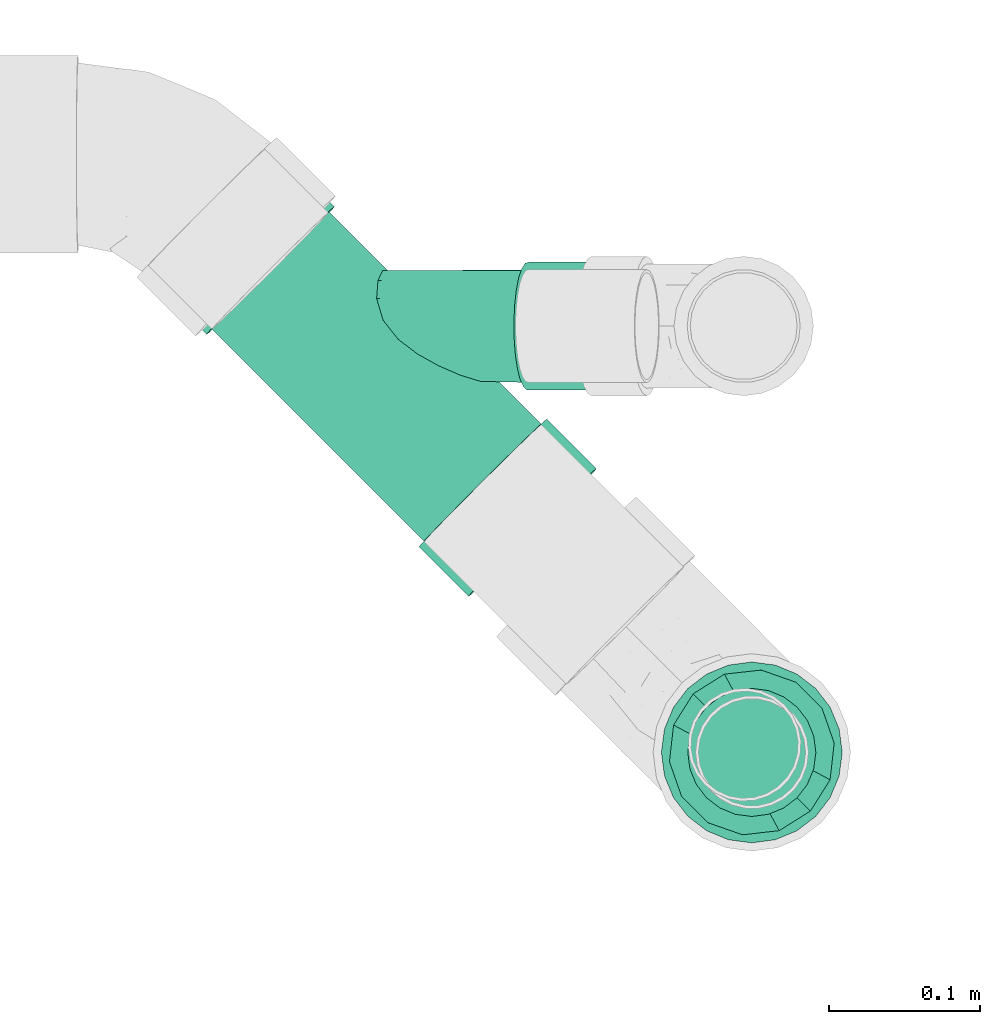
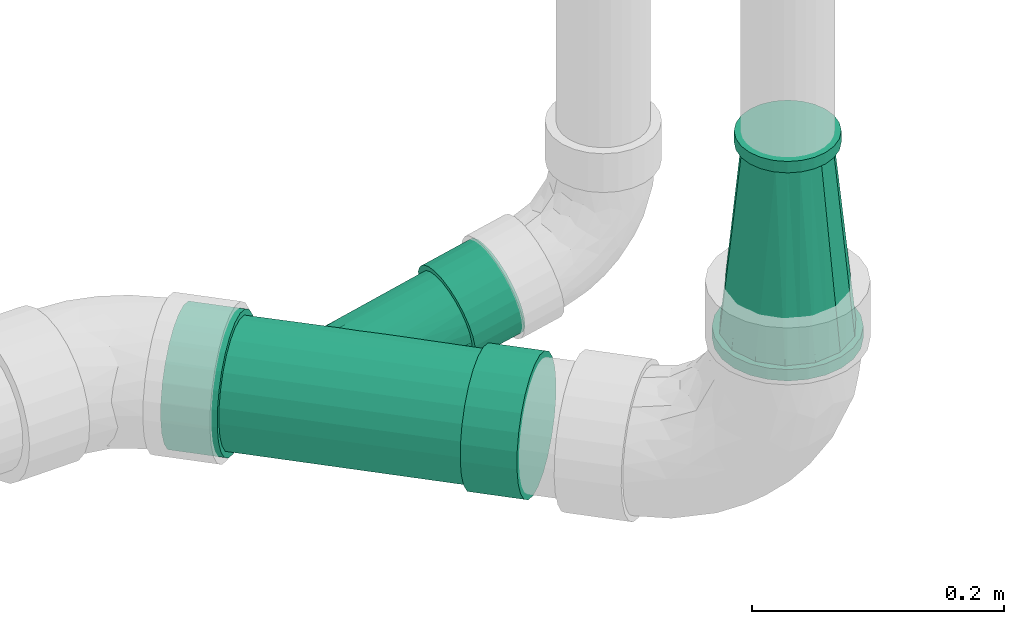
# One storey, part 64 of 83: 2 flow fittings.
"""IFC2X3 building model written with IfcOpenShell, lengths in millimetres."""

from ifc_helpers import new_model, entity, si_unit, converted_unit, derived_unit, direction, frame, origin_with_axes, place, context, subcontext, project, spatial, open_shell, surface_model, source, transform, mapped, type_object, element, save


model = new_model("IFC2X3")

# Units and contexts
model_context = context("Model", 3, precision=0.01, world=frame((0.0, 4.29681676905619e-09, 0.0)), true_north=direction((4.01073788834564e-13, 1.0)))
plan_context = context("Plan", 3, precision=0.01, world=frame((0.0, 4.29681676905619e-09, 0.0)), true_north=direction((4.01073788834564e-13, 1.0)))
body_context = subcontext(model_context, "Body", "Model", "MODEL_VIEW")
ifc_project = project(units=[converted_unit("PLANEANGLEUNIT", "DEGREE", entity("IfcPositiveLengthMeasure", 0.0174532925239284), si_unit("PLANEANGLEUNIT", "RADIAN"), dimensions=[0, 0, 0, 0, 0, 0, 0]), si_unit("AREAUNIT", "SQUARE_METRE"), si_unit("LENGTHUNIT", "METRE", prefix="MILLI"), si_unit("MASSUNIT", "GRAM", prefix="KILO"), si_unit("POWERUNIT", "WATT"), si_unit("PRESSUREUNIT", "PASCAL"), si_unit("FORCEUNIT", "NEWTON", prefix="KILO"), si_unit("ELECTRICVOLTAGEUNIT", "VOLT"), si_unit("ELECTRICCURRENTUNIT", "AMPERE"), si_unit("THERMODYNAMICTEMPERATUREUNIT", "DEGREE_CELSIUS"), si_unit("TIMEUNIT", "SECOND"), si_unit("VOLUMEUNIT", "CUBIC_METRE"), derived_unit("LINEARVELOCITYUNIT", [(si_unit("LENGTHUNIT", "METRE"), 1), (si_unit("TIMEUNIT", "SECOND"), -1)]), derived_unit("VOLUMETRICFLOWRATEUNIT", [(si_unit("VOLUMEUNIT", "CUBIC_METRE"), 1), (si_unit("TIMEUNIT", "SECOND"), -1)]), derived_unit("THERMALTRANSMITTANCEUNIT", [(si_unit("POWERUNIT", "WATT"), 1), (si_unit("THERMODYNAMICTEMPERATUREUNIT", "KELVIN"), -1), (si_unit("AREAUNIT", "SQUARE_METRE"), -1)]), derived_unit("SOUNDPRESSUREUNIT", [(si_unit("PRESSUREUNIT", "PASCAL"), 1)])], contexts=[model_context, plan_context])

# Site, building, storey
site_placement = place(None, frame((0.0, -4.29681676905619e-09, 0.0), z_axis=(0.0, 0.0, 1.0), x_axis=(1.0, 0.0, 0.0)))
site = spatial("IfcSite", under=ifc_project, at=site_placement, Name="ENGM", CompositionType="ELEMENT")
building_placement = place(site_placement, frame((0.0, 4.29681676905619e-09, 0.0), z_axis=(0.0, 0.0, 1.0), x_axis=(1.0, 0.0, 0.0)))
building = spatial("IfcBuilding", under=site, at=building_placement, Name="TI", CompositionType="ELEMENT")
storey_placement = place(building_placement, frame((0.0, 0.0, 204000.0), z_axis=(0.0, 0.0, 1.0), x_axis=(1.0, 0.0, 0.0)))
storey = spatial("IfcBuildingStorey", under=building, at=storey_placement, Name="Nivå D", CompositionType="ELEMENT", Elevation=204000.0)

# Flow fittings
pipe_fitting_type_1 = type_object("IfcPipeFittingType", Name="magi_sewer_transition_001", PredefinedType="TRANSITION")
shared_shape_1 = source(origin_with_axes(), body_context, "Body", "SurfaceModel", [
    surface_model("IfcShellBasedSurfaceModel", [(0.0, 42.42641, 42.42641), (0.0, 0.0, 60.0), (0.0, 15.52914, 57.95555), (0.0, 30.0, 51.96152), (0.0, 51.96152, 30.0), (0.0, 57.95555, 15.52914), (0.0, -51.96152, 30.0), (0.0, -60.0, 0.0), (0.0, -42.42641, 42.42641), (0.0, -30.0, 51.96152), (0.0, -15.52914, 57.95555), (0.0, -57.95555, 15.52914), (0.0, -51.96152, -30.0), (0.0, 57.95555, -15.52914), (0.0, 30.0, -51.96152), (0.0, 51.96152, -30.0), (0.0, -42.42641, -42.42641), (0.0, 42.42641, -42.42641), (0.0, 15.52914, -57.95555), (0.0, -57.95555, -15.52914), (0.0, -30.0, -51.96152), (0.0, 0.0, -60.0), (0.0, -15.52914, -57.95555), (0.0, 60.0, 0.0), (189.0, 0.0, 37.5), (189.0, 32.47595, -18.75), (189.0, 18.75, 32.47595), (189.0, -18.75, 32.47595), (189.0, -37.5, 0.0), (189.0, 32.47595, 18.75), (189.0, 37.5, 0.0), (189.0, -32.47595, 18.75), (189.0, -32.47595, -18.75), (189.0, -18.75, -32.47595), (189.0, 0.0, -37.5), (189.0, 18.75, -32.47595), (11.0, 55.0, 0.0), (11.0, 12.23865, 53.62104), (11.0, 34.29194, 43.00073), (11.0, -12.23865, 53.62104), (11.0, -34.29194, 43.00073), (11.0, -49.55329, -23.86361), (11.0, -55.0, 0.0), (11.0, -49.55329, 23.86361), (11.0, 49.55329, 23.86361), (11.0, 49.55329, -23.86361), (11.0, 34.29194, -43.00073), (11.0, -34.29194, -43.00073), (11.0, 12.23865, -53.62104), (11.0, -12.23865, -53.62104), (11.0, 23.2653, -48.31088), (189.0, 34.98798, -9.375), (11.0, 52.27664, -11.9318), (11.0, 41.92261, -33.43217), (189.0, 9.375, -34.98798), (11.0, -52.27664, -11.9318), (189.0, -34.98798, -9.375), (11.0, 0.0, -53.62104), (11.0, -23.2653, -48.31088), (189.0, -9.375, -34.98798), (11.0, -41.92261, -33.43217), (189.0, 25.61298, -25.61298), (189.0, -25.61298, -25.61298), (11.0, -23.2653, 48.31088), (189.0, -34.98798, 9.375), (11.0, -52.27664, 11.9318), (11.0, -41.92261, 33.43217), (189.0, -9.375, 34.98798), (11.0, 52.27664, 11.9318), (189.0, 34.98798, 9.375), (11.0, 0.0, 53.62104), (11.0, 23.2653, 48.31088), (189.0, 9.375, 34.98798), (11.0, 41.92261, 33.43217), (189.0, -25.61298, 25.61298), (189.0, 25.61298, 25.61298), (189.0, 10.99981, 41.05185), (189.0, -10.99981, 41.05185), (189.0, 0.0, 42.5), (189.0, 30.05204, 30.05204), (189.0, 21.25, 36.80608), (189.0, 36.80608, 21.25), (189.0, 41.05185, 10.99981), (189.0, -42.5, 0.0), (189.0, -41.05185, -10.99981), (189.0, -30.05204, 30.05204), (189.0, -21.25, 36.80608), (189.0, -36.80608, 21.25), (189.0, -41.05185, 10.99981), (189.0, 21.25, -36.80608), (189.0, 42.5, 0.0), (189.0, 41.05185, -10.99981), (189.0, 36.80608, -21.25), (189.0, -10.99981, -41.05185), (189.0, 30.05204, -30.05204), (189.0, 10.99981, -41.05185), (189.0, -30.05204, -30.05204), (189.0, -36.80608, -21.25), (189.0, -21.25, -36.80608), (189.0, 0.0, -42.5), (200.0, 21.25, -36.80608), (200.0, -41.05185, -10.99981), (200.0, 10.99981, -41.05185), (200.0, 36.80608, -21.25), (200.0, 30.05204, -30.05204), (200.0, 41.05185, -10.99981), (200.0, 42.5, 0.0), (200.0, 30.05204, 30.05204), (200.0, -10.99981, -41.05185), (200.0, -21.25, -36.80608), (200.0, 0.0, -42.5), (200.0, -30.05204, -30.05204), (200.0, -36.80608, -21.25), (200.0, 41.05185, 10.99981), (200.0, 36.80608, 21.25), (200.0, 10.99981, 41.05185), (200.0, 0.0, 42.5), (200.0, 21.25, 36.80608), (200.0, -42.5, 0.0), (200.0, -41.05185, 10.99981), (200.0, -10.99981, 41.05185), (200.0, -36.80608, 21.25), (200.0, -30.05204, 30.05204), (200.0, -21.25, 36.80608), (11.0, 30.0, -51.96152), (11.0, -42.42641, -42.42641), (11.0, 15.52914, -57.95555), (11.0, 51.96152, -30.0), (11.0, 42.42641, -42.42641), (11.0, 57.95555, -15.52914), (11.0, -60.0, 0.0), (11.0, 0.0, -60.0), (11.0, -30.0, -51.96152), (11.0, -15.52914, -57.95555), (11.0, -51.96152, -30.0), (11.0, -57.95555, -15.52914), (11.0, 60.0, 0.0), (11.0, 57.95555, 15.52914), (11.0, 51.96152, 30.0), (11.0, 42.42641, 42.42641), (11.0, 15.52914, 57.95555), (11.0, 0.0, 60.0), (11.0, 30.0, 51.96152), (11.0, -51.96152, 30.0), (11.0, -57.95555, 15.52914), (11.0, -42.42641, 42.42641), (11.0, -30.0, 51.96152), (11.0, -15.52914, 57.95555)], [open_shell([[[0, 1, 2]], [[0, 2, 3]], [[0, 4, 5]], [[1, 0, 6]], [[7, 0, 5]], [[1, 8, 9]], [[9, 10, 1]], [[6, 7, 11]], [[1, 6, 8]], [[0, 7, 6]], [[5, 12, 7]], [[5, 13, 14]], [[14, 13, 15]], [[14, 16, 5]], [[14, 15, 17]], [[18, 16, 14]], [[16, 12, 5]], [[19, 7, 12]], [[20, 21, 22]], [[21, 20, 16]], [[21, 16, 18]], [[23, 13, 5]], [[24, 25, 26]], [[27, 28, 24]], [[26, 25, 29]], [[30, 29, 25]], [[28, 27, 31]], [[28, 32, 33]], [[28, 33, 34]], [[25, 34, 35]], [[34, 25, 28]], [[28, 25, 24]], [[36, 37, 38]], [[36, 39, 37]], [[40, 39, 36]], [[41, 42, 43]], [[43, 40, 41]], [[44, 36, 38]], [[41, 36, 45]], [[41, 45, 46]], [[47, 41, 48]], [[48, 49, 47]], [[41, 46, 48]], [[36, 41, 40]], [[50, 46, 35]], [[51, 45, 52]], [[53, 45, 25]], [[25, 45, 51]], [[50, 54, 48]], [[28, 55, 56]], [[55, 41, 56]], [[34, 57, 48]], [[33, 47, 58]], [[55, 28, 42]], [[34, 49, 57]], [[58, 59, 33]], [[30, 51, 52]], [[60, 32, 41]], [[25, 61, 53]], [[61, 46, 53]], [[61, 35, 46]], [[58, 49, 59]], [[30, 52, 36]], [[41, 32, 56]], [[32, 60, 62]], [[47, 33, 62]], [[54, 34, 48]], [[49, 34, 59]], [[60, 47, 62]], [[54, 50, 35]], [[63, 40, 27]], [[64, 43, 65]], [[66, 43, 31]], [[31, 43, 64]], [[63, 67, 39]], [[30, 68, 69]], [[68, 44, 69]], [[24, 70, 39]], [[26, 38, 71]], [[68, 30, 36]], [[24, 37, 70]], [[71, 72, 26]], [[28, 64, 65]], [[73, 29, 44]], [[31, 74, 66]], [[74, 40, 66]], [[74, 27, 40]], [[71, 37, 72]], [[28, 65, 42]], [[44, 29, 69]], [[29, 73, 75]], [[38, 26, 75]], [[67, 24, 39]], [[37, 24, 72]], [[73, 38, 75]], [[67, 63, 27]], [[76, 77, 78]], [[79, 76, 80]], [[79, 81, 82]], [[83, 76, 79]], [[84, 83, 79]], [[77, 85, 86]], [[85, 77, 87]], [[77, 88, 87]], [[88, 77, 83]], [[77, 76, 83]], [[79, 82, 89]], [[90, 91, 92]], [[92, 89, 82]], [[89, 93, 79]], [[89, 92, 94]], [[95, 93, 89]], [[84, 96, 97]], [[96, 84, 98]], [[84, 93, 98]], [[79, 93, 84]], [[95, 99, 93]], [[82, 90, 92]], [[100, 101, 102]], [[103, 100, 104]], [[103, 105, 106]], [[100, 103, 107]], [[107, 101, 100]], [[108, 101, 109]], [[108, 110, 102]], [[111, 101, 112]], [[101, 111, 109]], [[102, 101, 108]], [[113, 103, 106]], [[113, 114, 107]], [[107, 115, 101]], [[115, 116, 101]], [[115, 107, 117]], [[101, 116, 118]], [[119, 120, 121]], [[120, 119, 118]], [[122, 120, 123]], [[120, 122, 121]], [[118, 116, 120]], [[107, 103, 113]], [[84, 101, 83]], [[97, 112, 84]], [[109, 96, 98]], [[97, 96, 111]], [[108, 98, 93]], [[84, 112, 101]], [[101, 118, 83]], [[108, 109, 98]], [[111, 96, 109]], [[111, 112, 97]], [[110, 108, 93]], [[93, 99, 110]], [[95, 102, 99]], [[89, 100, 95]], [[103, 94, 92]], [[89, 94, 104]], [[105, 92, 91]], [[89, 104, 100]], [[100, 102, 95]], [[106, 105, 91]], [[103, 92, 105]], [[103, 104, 94]], [[90, 106, 91]], [[99, 102, 110]], [[82, 113, 90]], [[81, 114, 82]], [[117, 79, 80]], [[81, 79, 107]], [[115, 80, 76]], [[82, 114, 113]], [[113, 106, 90]], [[115, 117, 80]], [[107, 79, 117]], [[107, 114, 81]], [[116, 115, 76]], [[76, 78, 116]], [[77, 120, 78]], [[86, 123, 77]], [[121, 85, 87]], [[86, 85, 122]], [[119, 87, 88]], [[86, 122, 123]], [[123, 120, 77]], [[118, 119, 88]], [[121, 87, 119]], [[121, 122, 85]], [[83, 118, 88]], [[78, 120, 116]], [[124, 125, 126]], [[127, 124, 128]], [[124, 129, 130]], [[129, 124, 127]], [[130, 125, 124]], [[131, 132, 133]], [[132, 131, 125]], [[126, 125, 131]], [[125, 130, 134]], [[134, 130, 135]], [[129, 136, 137]], [[137, 138, 139]], [[130, 137, 139]], [[140, 141, 139]], [[140, 139, 142]], [[143, 139, 141]], [[130, 143, 144]], [[130, 139, 143]], [[141, 145, 143]], [[141, 146, 145]], [[147, 146, 141]], [[137, 130, 129]], [[19, 135, 7]], [[12, 134, 19]], [[132, 16, 20]], [[12, 16, 125]], [[133, 20, 22]], [[19, 134, 135]], [[135, 130, 7]], [[133, 132, 20]], [[125, 16, 132]], [[125, 134, 12]], [[131, 133, 22]], [[22, 21, 131]], [[18, 126, 21]], [[14, 124, 18]], [[127, 17, 15]], [[14, 17, 128]], [[129, 15, 13]], [[14, 128, 124]], [[124, 126, 18]], [[136, 129, 13]], [[127, 15, 129]], [[127, 128, 17]], [[23, 136, 13]], [[21, 126, 131]], [[5, 137, 23]], [[4, 138, 5]], [[142, 0, 3]], [[4, 0, 139]], [[140, 3, 2]], [[5, 138, 137]], [[137, 136, 23]], [[140, 142, 3]], [[139, 0, 142]], [[139, 138, 4]], [[141, 140, 2]], [[2, 1, 141]], [[10, 147, 1]], [[9, 146, 10]], [[143, 8, 6]], [[9, 8, 145]], [[144, 6, 11]], [[9, 145, 146]], [[146, 147, 10]], [[130, 144, 11]], [[143, 6, 144]], [[143, 145, 8]], [[7, 130, 11]], [[1, 147, 141]]])]),
])
flow_fitting_1_placement = place(storey_placement, frame((609130.93565, 692600.83697, 6297.87482999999), z_axis=(-0.707106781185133, -0.707106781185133, -1.99999938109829e-06), x_axis=(-1.4142131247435e-06, -1.4142131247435e-06, 0.999999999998)))
element("IfcFlowFitting", 1, at=flow_fitting_1_placement, inside=storey, type_object=pipe_fitting_type_1, Name="magi_sewer_transition_001", context=body_context, shape_type="MappedRepresentation", body=[
    mapped(shared_shape_1, transform((0.0, 0.0, 0.0), scale=1.0)),
])
pipe_fitting_type_2 = type_object("IfcPipeFittingType", Name="magi_sewer_tee_wye_NOR", PredefinedType="JUNCTION")
shared_shape_2 = source(origin_with_axes(), body_context, "Body", "SurfaceModel", [
    surface_model("IfcShellBasedSurfaceModel", [(193.79707, 30.0, -51.96152), (193.79707, -42.42641, -42.42641), (193.79707, 15.52914, -57.95555), (193.79707, 51.96152, -30.0), (193.79707, 42.42641, -42.42641), (193.79707, 57.95555, -15.52914), (193.79707, 60.0, 0.0), (193.79707, 0.0, -60.0), (193.79707, -30.0, -51.96152), (193.79707, -15.52914, -57.95555), (193.79707, 57.95555, 15.52914), (193.79707, -51.96152, -30.0), (193.79707, -60.0, 0.0), (193.79707, -57.95555, -15.52914), (193.79707, 51.96152, 30.0), (193.79707, 42.42641, 42.42641), (193.79707, 15.52914, 57.95555), (193.79707, 0.0, 60.0), (193.79707, 30.0, 51.96152), (193.79707, -51.96152, 30.0), (193.79707, -57.95555, 15.52914), (193.79707, -30.0, 51.96152), (193.79707, -42.42641, 42.42641), (193.79707, -15.52914, 57.95555), (147.29707, 42.42641, 42.42641), (147.29707, 0.0, 60.0), (147.29707, 15.52914, 57.95555), (147.29707, 30.0, 51.96152), (147.29707, 51.96152, 30.0), (147.29707, 57.95555, 15.52914), (147.29707, -60.0, 0.0), (147.29707, -30.0, 51.96152), (147.29707, -51.96152, 30.0), (147.29707, -42.42641, 42.42641), (147.29707, -15.52914, 57.95555), (147.29707, -57.95555, 15.52914), (147.29707, -51.96152, -30.0), (147.29707, -42.42641, -42.42641), (147.29707, 57.95555, -15.52914), (147.29707, 42.42641, -42.42641), (147.29707, 51.96152, -30.0), (147.29707, 30.0, -51.96152), (147.29707, 15.52914, -57.95555), (147.29707, -57.95555, -15.52914), (147.29707, -30.0, -51.96152), (147.29707, 0.0, -60.0), (147.29707, -15.52914, -57.95555), (147.29707, 60.0, 0.0), (95.27503, -99.01584, -42.5), (87.34871, -106.64271, -41.05185), (103.20137, -91.38896, -41.05185), (110.58753, -84.28186, -36.80608), (121.79704, -73.49583, -21.25), (124.85649, -70.55197, -10.99981), (116.93016, -78.17884, -30.05204), (65.69359, -127.47971, -10.99981), (73.61991, -119.85283, -30.05204), (68.75303, -124.53585, -21.25), (79.96255, -113.74982, -36.80608), (64.65006, -128.4838, 0.0), (125.90001, -69.54787, 0.0), (121.79704, -73.49583, 21.25), (124.85649, -70.55197, 10.99981), (65.69359, -127.47971, 10.99981), (110.58753, -84.28186, 36.80608), (79.96255, -113.74982, 36.80608), (116.93016, -78.17884, 30.05204), (103.20137, -91.38896, 41.05185), (95.27503, -99.01584, 42.5), (68.75303, -124.53585, 21.25), (73.61991, -119.85283, 30.05204), (87.34871, -106.64271, 41.05185), (135.44279, -124.89629, -41.05185), (119.59013, -140.15003, -41.05185), (127.51646, -132.52316, -42.5), (157.09791, -104.05929, -10.99981), (142.82895, -117.78918, -36.80608), (149.17158, -111.68616, -30.05204), (154.03847, -107.00315, -21.25), (97.93501, -160.98703, -10.99981), (105.86133, -153.36015, -30.05204), (112.20397, -147.25715, -36.80608), (100.99445, -158.04317, -21.25), (142.82895, -117.78918, 36.80608), (96.89149, -161.99113, 0.0), (157.09791, -104.05929, 10.99981), (149.17158, -111.68616, 30.05204), (154.03847, -107.00315, 21.25), (97.93501, -160.98703, 10.99981), (135.44279, -124.89629, 41.05185), (105.86133, -153.36015, 30.05204), (100.99445, -158.04317, 21.25), (112.20397, -147.25715, 36.80608), (127.51646, -132.52316, 42.5), (119.59013, -140.15003, 41.05185), (158.14144, -103.05519, 0.0), (-98.52204, -30.0, -51.96152), (-98.52204, 42.42641, -42.42641), (-98.52204, -15.52914, -57.95555), (-98.52204, -51.96152, -30.0), (-98.52204, -42.42641, -42.42641), (-98.52204, -57.95555, -15.52914), (-98.52204, -60.0, 0.0), (-98.52204, 0.0, -60.0), (-98.52204, 30.0, -51.96152), (-98.52204, 15.52914, -57.95555), (-98.52204, -57.95555, 15.52914), (-98.52204, 51.96152, -30.0), (-98.52204, 60.0, 0.0), (-98.52204, 57.95555, -15.52914), (-98.52204, -51.96152, 30.0), (-98.52204, -42.42641, 42.42641), (-98.52204, -15.52914, 57.95555), (-98.52204, 0.0, 60.0), (-98.52204, -30.0, 51.96152), (-98.52204, 51.96152, 30.0), (-98.52204, 57.95555, 15.52914), (-98.52204, 30.0, 51.96152), (-98.52204, 42.42641, 42.42641), (-98.52204, 15.52914, 57.95555), (-52.02203, -42.42641, 42.42641), (-52.02203, 0.0, 60.0), (-52.02203, -15.52914, 57.95555), (-52.02203, -30.0, 51.96152), (-52.02203, -51.96152, 30.0), (-52.02203, -57.95555, 15.52914), (-52.02203, 60.0, 0.0), (-52.02203, 30.0, 51.96152), (-52.02203, 51.96152, 30.0), (-52.02203, 42.42641, 42.42641), (-52.02203, 15.52914, 57.95555), (-52.02203, 57.95555, 15.52914), (-52.02203, 51.96152, -30.0), (-52.02203, 42.42641, -42.42641), (-52.02203, -57.95555, -15.52914), (-52.02203, -42.42641, -42.42641), (-52.02203, -51.96152, -30.0), (-52.02203, -30.0, -51.96152), (-52.02203, -15.52914, -57.95555), (-52.02203, 57.95555, -15.52914), (-52.02203, 30.0, -51.96152), (-52.02203, 0.0, -60.0), (-52.02203, 15.52914, -57.95555), (-52.02203, -60.0, 0.0), (147.29707, 27.5, -47.63139), (147.29707, 0.0, -55.0), (147.29707, 14.23505, -53.12592), (147.29707, 38.89087, -38.89087), (147.29707, -27.5, -47.63139), (147.29707, 47.63139, -27.5), (147.29707, 53.12592, -14.23505), (147.29707, 55.0, 0.0), (147.29707, -14.23505, -53.12592), (147.29707, -47.63139, -27.5), (147.29707, -38.89087, -38.89087), (147.29707, -55.0, 0.0), (147.29707, -53.12592, -14.23505), (147.29707, 53.12592, 14.23505), (147.29707, 47.63139, 27.5), (147.29707, 27.5, 47.63139), (147.29707, 38.89087, 38.89087), (147.29707, 14.23505, 53.12592), (147.29707, 0.0, 55.0), (147.29707, -47.63139, 27.5), (147.29707, -53.12592, 14.23505), (147.29707, -27.5, 47.63139), (147.29707, -38.89087, 38.89087), (147.29707, -14.23505, 53.12592), (-52.02203, 0.0, 55.0), (-52.02203, 14.23505, 53.12592), (-52.02203, 27.5, 47.63139), (-52.02203, 47.63139, 27.5), (-52.02203, -47.63139, 27.5), (-52.02203, 38.89087, 38.89087), (-52.02203, 53.12592, -14.23505), (-52.02203, -27.5, 47.63139), (-52.02203, -14.23505, 53.12592), (-52.02203, -38.89087, 38.89087), (-52.02203, -55.0, 0.0), (-52.02203, -53.12592, 14.23505), (-52.02203, 53.12592, 14.23505), (-52.02203, 47.63139, -27.5), (-52.02203, -27.5, -47.63139), (-52.02203, 0.0, -55.0), (-52.02203, 38.89087, -38.89087), (-52.02203, 27.5, -47.63139), (-52.02203, 14.23505, -53.12592), (-52.02203, -47.63139, -27.5), (-52.02203, -38.89087, -38.89087), (-52.02203, -53.12592, -14.23505), (-52.02203, -14.23505, -53.12592), (-52.02203, 55.0, 0.0), (0.88125, -55.0, 0.0), (3.49061, -52.68557, -15.78706), (24.90901, -41.70107, -35.86114), (11.53036, -46.98744, -28.58636), (40.95891, -40.26533, -37.46602), (86.62088, -49.19455, -24.59463), (147.29707, -50.37866, -20.86752), (104.96297, -55.0, 0.0), (98.89193, -53.00539, -14.6775), (72.32219, -45.26111, -31.24791), (56.99415, -41.97518, -35.5399), (40.95891, -40.26533, 37.46602), (24.90901, -41.70107, 35.86114), (11.53036, -46.98744, 28.58636), (98.89193, -53.00539, 14.6775), (147.29707, -50.37866, 20.86752), (86.62088, -49.19455, 24.59463), (3.49061, -52.68557, 15.78706), (56.99415, -41.97518, 35.5399), (72.32219, -45.26111, 31.24791), (114.3825, -80.63025, -26.5165), (95.27503, -99.01584, -37.5), (102.26886, -92.28625, -36.22222), (108.78606, -86.01526, -32.47595), (118.6768, -76.49818, 18.75), (71.87327, -121.53349, -18.75), (81.76402, -112.01641, -32.47595), (118.6768, -76.49818, -18.75), (122.29707, -73.01469, 0.0), (76.16758, -117.40143, -26.5165), (88.28122, -105.74543, -36.22222), (69.17376, -124.13101, -9.70571), (69.17376, -124.13101, 9.70571), (68.253, -125.01699, 0.0), (121.37632, -73.90066, -9.70571), (121.37632, -73.90066, 9.70571), (102.26886, -92.28625, 36.22222), (108.78606, -86.01526, 32.47595), (114.3825, -80.63025, 26.5165), (81.76402, -112.01641, 32.47595), (71.87327, -121.53349, 18.75), (76.16758, -117.40143, 26.5165), (95.27503, -99.01584, 37.5), (88.28122, -105.74543, 36.22222), (18.21968, -44.34425, 32.22375), (2.18593, -53.84278, 7.89353), (7.51049, -49.83651, 22.18671), (103.44521, -54.50135, 3.66938), (121.83669, -73.45768, 4.85286), (120.02656, -75.19942, 14.22786), (101.92745, -54.00269, 7.33875), (92.7564, -51.09997, 19.63607), (101.92745, -54.00269, -7.33875), (121.83669, -73.45768, -4.85286), (92.7564, -51.09997, -19.63607), (103.44521, -54.50135, -3.66938), (7.51049, -49.83651, -22.18671), (120.02656, -75.19942, -14.22786), (2.18593, -53.84278, -7.89353), (18.21968, -44.34425, -32.22375)], [open_shell([[[0, 1, 2]], [[3, 0, 4]], [[5, 6, 0]], [[5, 0, 3]], [[1, 0, 6]], [[7, 8, 9]], [[8, 7, 1]], [[2, 1, 7]], [[1, 10, 11]], [[11, 12, 13]], [[10, 1, 6]], [[10, 14, 15]], [[12, 10, 15]], [[16, 17, 15]], [[16, 15, 18]], [[19, 15, 17]], [[12, 19, 20]], [[12, 15, 19]], [[19, 21, 22]], [[19, 17, 21]], [[23, 21, 17]], [[10, 12, 11]], [[24, 25, 26]], [[24, 26, 27]], [[24, 28, 29]], [[25, 24, 30]], [[30, 24, 29]], [[31, 32, 33]], [[31, 34, 25]], [[32, 30, 35]], [[31, 25, 32]], [[25, 30, 32]], [[29, 36, 30]], [[37, 29, 38]], [[39, 38, 40]], [[41, 42, 38]], [[41, 38, 39]], [[37, 38, 42]], [[37, 36, 29]], [[43, 30, 36]], [[44, 45, 46]], [[45, 44, 37]], [[45, 37, 42]], [[47, 38, 29]], [[43, 13, 30]], [[36, 11, 43]], [[8, 37, 44]], [[36, 37, 1]], [[9, 44, 46]], [[43, 11, 13]], [[13, 12, 30]], [[9, 8, 44]], [[1, 37, 8]], [[1, 11, 36]], [[7, 9, 46]], [[46, 45, 7]], [[2, 42, 41]], [[39, 0, 41]], [[3, 40, 38]], [[39, 40, 4]], [[5, 38, 47]], [[42, 2, 45]], [[41, 0, 2]], [[45, 2, 7]], [[39, 4, 0]], [[40, 3, 4]], [[5, 3, 38]], [[47, 6, 5]], [[29, 10, 47]], [[28, 14, 29]], [[18, 24, 27]], [[28, 24, 15]], [[16, 27, 26]], [[29, 14, 10]], [[10, 6, 47]], [[18, 27, 16]], [[15, 24, 18]], [[15, 14, 28]], [[16, 25, 17]], [[16, 26, 25]], [[23, 34, 31]], [[33, 21, 31]], [[19, 32, 35]], [[33, 32, 22]], [[20, 35, 30]], [[34, 23, 25]], [[31, 21, 23]], [[25, 23, 17]], [[33, 22, 21]], [[32, 19, 22]], [[20, 19, 35]], [[30, 12, 20]], [[48, 49, 50]], [[51, 50, 52]], [[50, 53, 52]], [[54, 51, 52]], [[53, 50, 55]], [[56, 57, 58]], [[49, 58, 57]], [[57, 55, 49]], [[55, 50, 49]], [[55, 59, 53]], [[59, 60, 53]], [[61, 62, 60]], [[63, 61, 59]], [[64, 61, 65]], [[66, 61, 64]], [[67, 64, 68]], [[69, 70, 63]], [[70, 61, 63]], [[71, 68, 65]], [[65, 61, 70]], [[65, 68, 64]], [[60, 59, 61]], [[72, 73, 74]], [[75, 72, 76]], [[77, 78, 75]], [[77, 75, 76]], [[79, 72, 75]], [[73, 80, 81]], [[80, 73, 79]], [[80, 79, 82]], [[73, 72, 79]], [[79, 83, 84]], [[79, 75, 83]], [[75, 85, 83]], [[86, 85, 87]], [[83, 88, 84]], [[83, 85, 86]], [[88, 83, 89]], [[88, 90, 91]], [[90, 88, 92]], [[92, 93, 94]], [[93, 92, 88]], [[88, 89, 93]], [[75, 95, 85]], [[88, 59, 84]], [[91, 63, 88]], [[92, 94, 71]], [[90, 92, 70]], [[90, 69, 91]], [[91, 69, 63]], [[63, 59, 88]], [[70, 92, 65]], [[71, 65, 92]], [[68, 71, 94]], [[70, 69, 90]], [[94, 93, 68]], [[64, 89, 83]], [[86, 66, 83]], [[62, 87, 85]], [[86, 87, 61]], [[60, 85, 95]], [[89, 67, 93]], [[89, 64, 67]], [[93, 67, 68]], [[83, 66, 64]], [[86, 61, 66]], [[62, 61, 87]], [[85, 60, 62]], [[75, 78, 52]], [[95, 75, 60]], [[51, 77, 76]], [[77, 54, 78]], [[50, 76, 72]], [[53, 60, 75]], [[52, 53, 75]], [[52, 78, 54]], [[77, 51, 54]], [[50, 51, 76]], [[72, 48, 50]], [[72, 74, 48]], [[58, 73, 81]], [[80, 56, 81]], [[55, 82, 79]], [[80, 82, 57]], [[59, 79, 84]], [[73, 49, 74]], [[73, 58, 49]], [[74, 49, 48]], [[81, 56, 58]], [[80, 57, 56]], [[55, 57, 82]], [[79, 59, 55]], [[96, 97, 98]], [[99, 96, 100]], [[101, 102, 96]], [[101, 96, 99]], [[97, 96, 102]], [[103, 104, 105]], [[104, 103, 97]], [[98, 97, 103]], [[97, 106, 107]], [[107, 108, 109]], [[106, 97, 102]], [[106, 110, 111]], [[108, 106, 111]], [[112, 113, 111]], [[112, 111, 114]], [[115, 111, 113]], [[108, 115, 116]], [[108, 111, 115]], [[115, 117, 118]], [[115, 113, 117]], [[119, 117, 113]], [[106, 108, 107]], [[120, 121, 122]], [[120, 122, 123]], [[120, 124, 125]], [[121, 120, 126]], [[126, 120, 125]], [[127, 128, 129]], [[127, 130, 121]], [[128, 126, 131]], [[127, 121, 128]], [[121, 126, 128]], [[125, 132, 126]], [[133, 125, 134]], [[135, 134, 136]], [[137, 138, 134]], [[137, 134, 135]], [[133, 134, 138]], [[133, 132, 125]], [[139, 126, 132]], [[140, 141, 142]], [[141, 140, 133]], [[141, 133, 138]], [[143, 134, 125]], [[139, 109, 126]], [[132, 107, 139]], [[104, 133, 140]], [[132, 133, 97]], [[105, 140, 142]], [[139, 107, 109]], [[109, 108, 126]], [[105, 104, 140]], [[97, 133, 104]], [[97, 107, 132]], [[103, 105, 142]], [[142, 141, 103]], [[98, 138, 137]], [[135, 96, 137]], [[99, 136, 134]], [[135, 136, 100]], [[101, 134, 143]], [[138, 98, 141]], [[137, 96, 98]], [[141, 98, 103]], [[135, 100, 96]], [[136, 99, 100]], [[101, 99, 134]], [[143, 102, 101]], [[125, 106, 143]], [[124, 110, 125]], [[114, 120, 123]], [[124, 120, 111]], [[112, 123, 122]], [[125, 110, 106]], [[106, 102, 143]], [[114, 123, 112]], [[111, 120, 114]], [[111, 110, 124]], [[112, 121, 113]], [[112, 122, 121]], [[119, 130, 127]], [[129, 117, 127]], [[115, 128, 131]], [[129, 128, 118]], [[116, 131, 126]], [[130, 119, 121]], [[127, 117, 119]], [[121, 119, 113]], [[129, 118, 117]], [[128, 115, 118]], [[116, 115, 131]], [[126, 108, 116]], [[144, 145, 146]], [[147, 148, 144]], [[148, 149, 150]], [[147, 149, 148]], [[151, 148, 150]], [[145, 148, 152]], [[145, 144, 148]], [[148, 153, 154]], [[148, 151, 153]], [[155, 156, 153]], [[153, 151, 157]], [[158, 155, 157]], [[159, 158, 160]], [[159, 161, 162]], [[158, 159, 155]], [[162, 163, 159]], [[155, 163, 164]], [[155, 159, 163]], [[162, 165, 166]], [[166, 163, 162]], [[165, 162, 167]], [[157, 155, 153]], [[168, 169, 170]], [[168, 170, 171]], [[168, 171, 172]], [[171, 170, 173]], [[174, 172, 171]], [[168, 175, 176]], [[168, 177, 175]], [[172, 178, 179]], [[177, 168, 172]], [[172, 174, 178]], [[174, 171, 180]], [[174, 181, 178]], [[181, 182, 178]], [[183, 184, 185]], [[181, 184, 183]], [[185, 186, 183]], [[187, 182, 188]], [[189, 178, 187]], [[182, 183, 190]], [[187, 178, 182]], [[183, 182, 181]], [[191, 174, 180]], [[178, 189, 192]], [[193, 192, 189]], [[189, 187, 193]], [[187, 188, 194]], [[194, 195, 187]], [[196, 194, 188]], [[196, 148, 154]], [[187, 195, 193]], [[197, 153, 198]], [[199, 200, 156]], [[156, 155, 199]], [[197, 198, 200]], [[201, 202, 154]], [[201, 153, 197]], [[153, 201, 154]], [[198, 156, 200]], [[202, 196, 154]], [[196, 188, 182]], [[152, 190, 183]], [[148, 182, 190]], [[145, 183, 186]], [[181, 174, 149]], [[144, 185, 184]], [[147, 184, 181]], [[186, 185, 146]], [[150, 174, 191]], [[148, 190, 152]], [[152, 183, 145]], [[146, 145, 186]], [[185, 144, 146]], [[144, 184, 147]], [[149, 147, 181]], [[150, 149, 174]], [[191, 151, 150]], [[182, 148, 196]], [[158, 180, 171]], [[171, 173, 158]], [[191, 180, 157]], [[168, 176, 162]], [[169, 159, 170]], [[161, 169, 168]], [[173, 170, 160]], [[167, 176, 175]], [[158, 157, 180]], [[173, 160, 158]], [[157, 151, 191]], [[170, 159, 160]], [[159, 169, 161]], [[162, 161, 168]], [[167, 162, 176]], [[175, 165, 167]], [[175, 203, 165]], [[204, 172, 205]], [[172, 204, 177]], [[206, 207, 208]], [[204, 203, 177]], [[203, 166, 165]], [[179, 178, 192]], [[179, 209, 172]], [[209, 179, 192]], [[172, 209, 205]], [[210, 211, 166]], [[163, 166, 211]], [[211, 208, 163]], [[210, 166, 203]], [[206, 164, 207]], [[164, 199, 155]], [[199, 164, 206]], [[208, 207, 163]], [[203, 175, 177]], [[212, 213, 214]], [[212, 214, 215]], [[212, 216, 217]], [[213, 212, 218]], [[212, 219, 220]], [[218, 217, 221]], [[218, 222, 213]], [[223, 224, 225]], [[218, 212, 217]], [[223, 217, 224]], [[219, 226, 220]], [[220, 227, 216]], [[216, 228, 217]], [[229, 228, 216]], [[229, 216, 230]], [[228, 231, 217]], [[232, 231, 233]], [[231, 232, 224]], [[231, 234, 235]], [[224, 217, 231]], [[228, 234, 231]], [[216, 212, 220]], [[204, 231, 235]], [[231, 204, 236]], [[203, 204, 235]], [[224, 237, 225]], [[232, 209, 224]], [[237, 192, 225]], [[233, 238, 232]], [[238, 233, 205]], [[224, 209, 237]], [[205, 233, 231]], [[220, 239, 240]], [[235, 234, 203]], [[210, 228, 229]], [[230, 211, 229]], [[206, 241, 227]], [[230, 216, 208]], [[240, 239, 242]], [[228, 210, 203]], [[229, 211, 210]], [[216, 206, 243]], [[242, 227, 240]], [[206, 216, 241]], [[243, 208, 216]], [[242, 206, 227]], [[239, 220, 199]], [[230, 208, 211]], [[236, 205, 231]], [[228, 203, 234]], [[238, 209, 232]], [[226, 244, 245]], [[226, 200, 244]], [[201, 212, 215]], [[219, 197, 246]], [[245, 244, 247]], [[202, 215, 214]], [[217, 193, 248]], [[200, 226, 249]], [[220, 245, 247]], [[200, 249, 219]], [[200, 219, 246]], [[220, 247, 199]], [[250, 225, 192]], [[197, 219, 212]], [[197, 212, 201]], [[218, 195, 251]], [[215, 202, 201]], [[214, 196, 202]], [[222, 218, 194]], [[218, 251, 194]], [[225, 250, 223]], [[248, 221, 217]], [[213, 222, 196]], [[213, 196, 214]], [[222, 194, 196]], [[218, 221, 195]], [[195, 221, 248]], [[193, 217, 223]], [[250, 193, 223]]])]),
])
flow_fitting_2_placement = place(storey_placement, frame((608848.36553, 692883.69745, 6172.32861), z_axis=(0.215779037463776, 0.193219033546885, -0.957134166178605), x_axis=(0.70700850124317, -0.707008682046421, 0.0166644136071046)))
element("IfcFlowFitting", 2, at=flow_fitting_2_placement, inside=storey, type_object=pipe_fitting_type_2, Name="magi_sewer_tee_wye_NOR", context=body_context, shape_type="MappedRepresentation", body=[
    mapped(shared_shape_2, transform((0.0, 0.0, 0.0), scale=1.0)),
])

save(model, "model.ifc")
